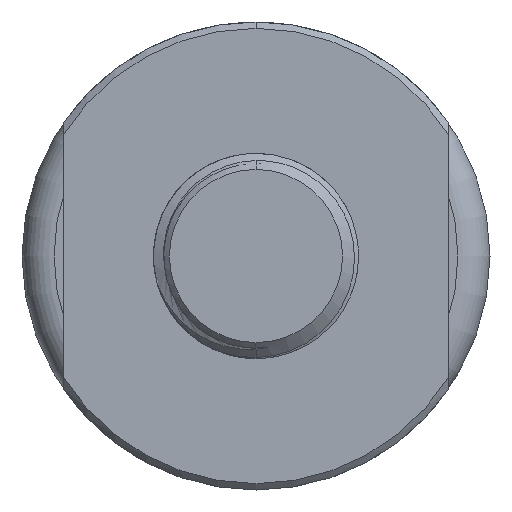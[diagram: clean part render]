
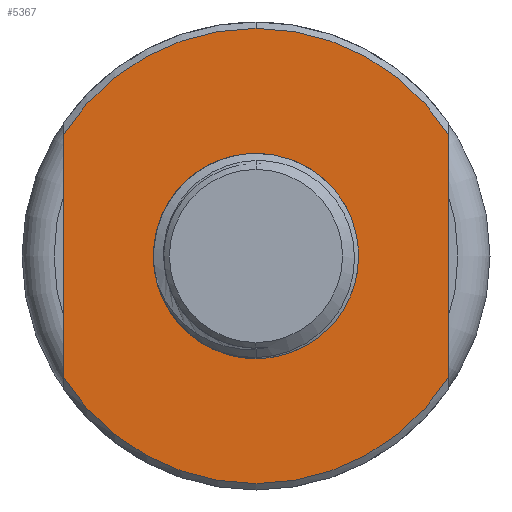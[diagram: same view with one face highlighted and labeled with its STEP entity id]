
A CAD part, front view. The second image highlights one B-rep face of the part: STEP entity #5367.
In plain terms, the highlighted planar face has unit normal (0, -1, 0).
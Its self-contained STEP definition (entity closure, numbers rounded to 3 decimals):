
#237 = CARTESIAN_POINT ( 'NONE',  ( 60., 0., -73. ) ) ;
#373 = EDGE_CURVE ( 'NONE', #2404, #1066, #3532, .T. ) ;
#412 = ORIENTED_EDGE ( 'NONE', *, *, #1625, .F. ) ;
#548 = CIRCLE ( 'NONE', #5668, 32. ) ;
#577 = EDGE_LOOP ( 'NONE', ( #4540, #745, #1239, #3623, #5175 ) ) ;
#704 = EDGE_LOOP ( 'NONE', ( #7431, #8187, #412 ) ) ;
#745 = ORIENTED_EDGE ( 'NONE', *, *, #6661, .T. ) ;
#873 = CARTESIAN_POINT ( 'NONE',  ( 0., 0., 0. ) ) ;
#901 = AXIS2_PLACEMENT_3D ( 'NONE', #873, #2787, #2921 ) ;
#1066 = VERTEX_POINT ( 'NONE', #2274 ) ;
#1168 = AXIS2_PLACEMENT_3D ( 'NONE', #4225, #2265, #8268 ) ;
#1239 = ORIENTED_EDGE ( 'NONE', *, *, #6022, .T. ) ;
#1551 = CARTESIAN_POINT ( 'NONE',  ( 0., 0., -71. ) ) ;
#1625 = EDGE_CURVE ( 'NONE', #6547, #2404, #548, .T. ) ;
#1688 = CIRCLE ( 'NONE', #1830, 71. ) ;
#1830 = AXIS2_PLACEMENT_3D ( 'NONE', #3115, #3704, #5160 ) ;
#2049 = CARTESIAN_POINT ( 'NONE',  ( -8.297, 0., -30.906 ) ) ;
#2265 = DIRECTION ( 'NONE',  ( 0., -1., 0. ) ) ;
#2274 = CARTESIAN_POINT ( 'NONE',  ( 15.985, 0., -27.722 ) ) ;
#2318 = AXIS2_PLACEMENT_3D ( 'NONE', #1551, #4268, #3825 ) ;
#2404 = VERTEX_POINT ( 'NONE', #6894 ) ;
#2544 = AXIS2_PLACEMENT_3D ( 'NONE', #6797, #7592, #4928 ) ;
#2648 = EDGE_CURVE ( 'NONE', #5802, #6764, #1688, .T. ) ;
#2787 = DIRECTION ( 'NONE',  ( 0., -1., 0. ) ) ;
#2921 = DIRECTION ( 'NONE',  ( 0., 0., -1. ) ) ;
#2985 = EDGE_CURVE ( 'NONE', #6764, #4931, #8374, .T. ) ;
#3040 = CARTESIAN_POINT ( 'NONE',  ( 60., 0., 37.961 ) ) ;
#3115 = CARTESIAN_POINT ( 'NONE',  ( 0., 0., 0. ) ) ;
#3311 = CIRCLE ( 'NONE', #901, 32. ) ;
#3532 = CIRCLE ( 'NONE', #5376, 32. ) ;
#3556 = FACE_OUTER_BOUND ( 'NONE', #577, .T. ) ;
#3623 = ORIENTED_EDGE ( 'NONE', *, *, #2648, .T. ) ;
#3704 = DIRECTION ( 'NONE',  ( 0., -1., 0. ) ) ;
#3707 = VERTEX_POINT ( 'NONE', #7054 ) ;
#3825 = DIRECTION ( 'NONE',  ( 0., 0., -1. ) ) ;
#3859 = CARTESIAN_POINT ( 'NONE',  ( -60., 0., -73. ) ) ;
#3885 = VECTOR ( 'NONE', #8504, 1000. ) ;
#3947 = DIRECTION ( 'NONE',  ( 0., 0., 1. ) ) ;
#4225 = CARTESIAN_POINT ( 'NONE',  ( 0., 0., 0. ) ) ;
#4268 = DIRECTION ( 'NONE',  ( 0., -1., 0. ) ) ;
#4329 = CARTESIAN_POINT ( 'NONE',  ( 0., 0., 0. ) ) ;
#4330 = LINE ( 'NONE', #237, #3885 ) ;
#4449 = EDGE_CURVE ( 'NONE', #1066, #6547, #3311, .T. ) ;
#4540 = ORIENTED_EDGE ( 'NONE', *, *, #6951, .F. ) ;
#4574 = DIRECTION ( 'NONE',  ( 0., 0., -1. ) ) ;
#4614 = LINE ( 'NONE', #3859, #5869 ) ;
#4928 = DIRECTION ( 'NONE',  ( 0., 0., -1. ) ) ;
#4931 = VERTEX_POINT ( 'NONE', #7307 ) ;
#4936 = FACE_BOUND ( 'NONE', #704, .T. ) ;
#4984 = CARTESIAN_POINT ( 'NONE',  ( 0., 0., 71. ) ) ;
#5160 = DIRECTION ( 'NONE',  ( 0., 0., -1. ) ) ;
#5175 = ORIENTED_EDGE ( 'NONE', *, *, #2985, .T. ) ;
#5367 = ADVANCED_FACE ( 'NONE', ( #3556, #4936 ), #7642, .T. ) ;
#5376 = AXIS2_PLACEMENT_3D ( 'NONE', #6569, #7904, #4574 ) ;
#5668 = AXIS2_PLACEMENT_3D ( 'NONE', #4329, #8502, #7088 ) ;
#5802 = VERTEX_POINT ( 'NONE', #3040 ) ;
#5869 = VECTOR ( 'NONE', #3947, 1000. ) ;
#6022 = EDGE_CURVE ( 'NONE', #3707, #5802, #4330, .T. ) ;
#6157 = CARTESIAN_POINT ( 'NONE',  ( -60., 0., -37.961 ) ) ;
#6547 = VERTEX_POINT ( 'NONE', #2049 ) ;
#6569 = CARTESIAN_POINT ( 'NONE',  ( 0., 0., 0. ) ) ;
#6661 = EDGE_CURVE ( 'NONE', #7355, #3707, #8437, .T. ) ;
#6764 = VERTEX_POINT ( 'NONE', #4984 ) ;
#6797 = CARTESIAN_POINT ( 'NONE',  ( 0., 0., 0. ) ) ;
#6894 = CARTESIAN_POINT ( 'NONE',  ( 0., 0., -32. ) ) ;
#6951 = EDGE_CURVE ( 'NONE', #7355, #4931, #4614, .T. ) ;
#7054 = CARTESIAN_POINT ( 'NONE',  ( 60., 0., -37.961 ) ) ;
#7088 = DIRECTION ( 'NONE',  ( 0., 0., -1. ) ) ;
#7307 = CARTESIAN_POINT ( 'NONE',  ( -60., 0., 37.961 ) ) ;
#7355 = VERTEX_POINT ( 'NONE', #6157 ) ;
#7431 = ORIENTED_EDGE ( 'NONE', *, *, #4449, .F. ) ;
#7592 = DIRECTION ( 'NONE',  ( 0., -1., 0. ) ) ;
#7642 = PLANE ( 'NONE',  #2318 ) ;
#7904 = DIRECTION ( 'NONE',  ( 0., -1., 0. ) ) ;
#8187 = ORIENTED_EDGE ( 'NONE', *, *, #373, .F. ) ;
#8268 = DIRECTION ( 'NONE',  ( 0., 0., -1. ) ) ;
#8374 = CIRCLE ( 'NONE', #2544, 71. ) ;
#8437 = CIRCLE ( 'NONE', #1168, 71. ) ;
#8502 = DIRECTION ( 'NONE',  ( 0., -1., 0. ) ) ;
#8504 = DIRECTION ( 'NONE',  ( 0., 0., 1. ) ) ;
